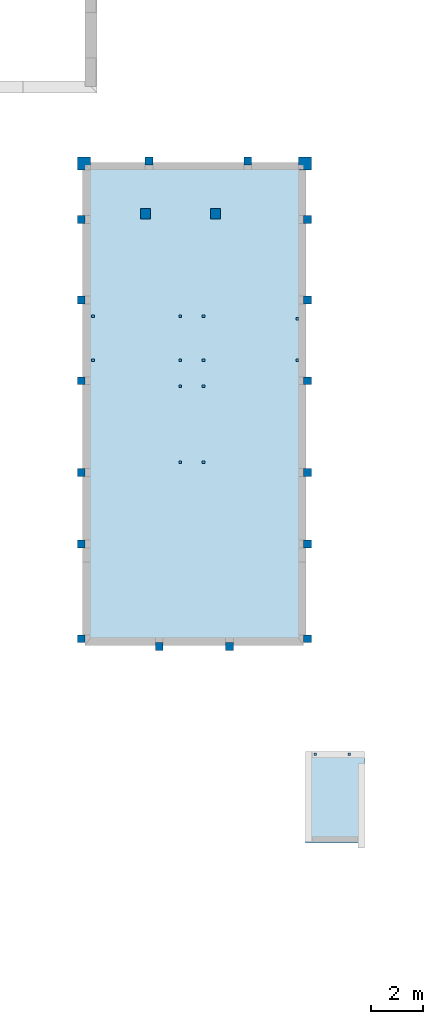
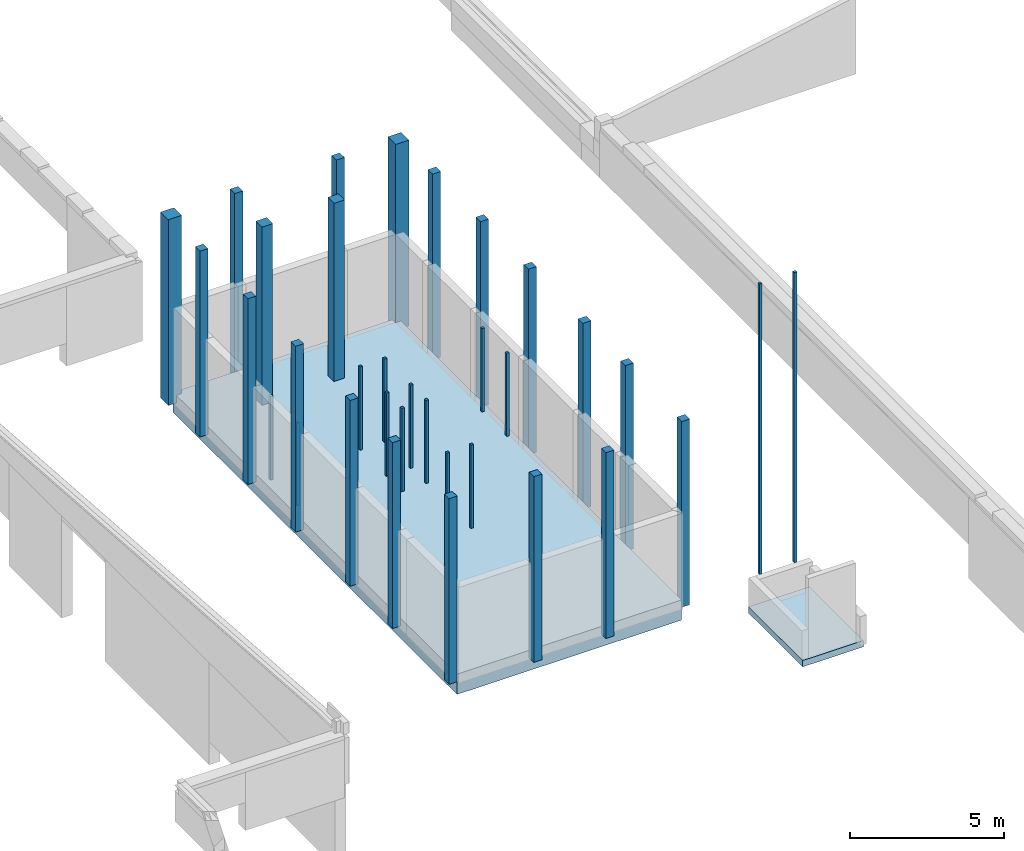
# One storey, part 1 of 17: 34 columns, 2 slabs.
"""IFC2X3 building model written with IfcOpenShell, lengths in millimetres."""

from ifc_helpers import new_model, entity, si_unit, converted_unit, derived_unit, money_unit, direction, frame, origin_with_axes, origin_2d_with_axis, place, context, subcontext, project, spatial, polyline, rectangle, outline, extrude, material, layer, layer_set, layer_usage, type_object, element, save


model = new_model("IFC2X3")

# Units and contexts
model_context = context("Model", 3, precision=0.01, world=origin_with_axes(), true_north=direction((0.0, 1.0)))
body_context = subcontext(model_context, "Body", "Model", "MODEL_VIEW")
ifc_project = project(units=[si_unit("LENGTHUNIT", "METRE", prefix="MILLI"), si_unit("AREAUNIT", "SQUARE_METRE"), si_unit("VOLUMEUNIT", "CUBIC_METRE"), converted_unit("PLANEANGLEUNIT", "DEGREE", entity("IfcPlaneAngleMeasure", 0.0174532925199), si_unit("PLANEANGLEUNIT", "RADIAN"), dimensions=[0, 0, 0, 0, 0, 0, 0]), si_unit("SOLIDANGLEUNIT", "STERADIAN"), money_unit("EUR"), converted_unit("TIMEUNIT", "Year", entity("IfcTimeMeasure", 31556926.0), si_unit("TIMEUNIT", "SECOND"), dimensions=[0, 0, 1, 0, 0, 0, 0]), si_unit("MASSUNIT", "GRAM", prefix="KILO"), si_unit("THERMODYNAMICTEMPERATUREUNIT", "DEGREE_CELSIUS"), si_unit("LUMINOUSINTENSITYUNIT", "LUMEN"), si_unit("ENERGYUNIT", "JOULE", prefix="MEGA"), derived_unit("THERMALCONDUCTANCEUNIT", [(si_unit("POWERUNIT", "WATT"), 1), (si_unit("LENGTHUNIT", "METRE"), -1), (si_unit("THERMODYNAMICTEMPERATUREUNIT", "KELVIN"), -1)]), derived_unit("SPECIFICHEATCAPACITYUNIT", [(si_unit("ENERGYUNIT", "JOULE"), 1), (si_unit("MASSUNIT", "GRAM", prefix="KILO"), -1), (si_unit("THERMODYNAMICTEMPERATUREUNIT", "KELVIN"), -1)]), derived_unit("MASSDENSITYUNIT", [(si_unit("MASSUNIT", "GRAM", prefix="KILO"), 1), (si_unit("VOLUMEUNIT", "CUBIC_METRE"), -1)])], contexts=[model_context])

# Site, building, storey
site_placement = place(None, origin_with_axes())
site = spatial("IfcSite", under=ifc_project, at=site_placement, Name="Puškini 31, Narva", CompositionType="ELEMENT")
building_placement = place(site_placement, origin_with_axes())
building = spatial("IfcBuilding", under=site, at=building_placement, Name="Narva Riigigümnaasium", CompositionType="ELEMENT")
storey_placement = place(building_placement, frame((0.0, 0.0, -6800.0), z_axis=(0.0, 0.0, 1.0), x_axis=(1.0, 0.0, 0.0)))
storey = spatial("IfcBuildingStorey", under=building, at=storey_placement, Name="0.korrus -6.8", CompositionType="ELEMENT", Elevation=-6800.0)

# Columns
ifc_material_1 = material(Name="ET-06_Teras - Konstruktsioon")
column_type_1 = type_object("IfcColumnType", Name="ET-06_Teras - Konstruktsioon 100 x 100", PredefinedType="COLUMN")
for number, where, z_axis, x_axis, name in (
    (1, (37300.0045213, 215165.002185, 10.0), (0.0, 0.0, 1.0), (0.0, 1.0, 0.0), "Post"),
    (2, (37300.0058322, 213465.002913, 10.0), (0.0, 0.0, 1.0), (0.0, 1.0, 0.0), "Post"),
    (3, (45149.9997837, 215065.002185, 10.0), (0.0, 0.0, 1.0), (0.0, 1.0, 0.0), "Post"),
    (4, (45150.0001544, 213465.002913, 10.0), (0.0, 0.0, 1.0), (0.0, 1.0, 0.0), "Post"),
    (5, (41550.0043274, 215165.002185, 10.0), (0.0, 0.0, 1.0), (0.0, 1.0, 0.0), "Post"),
    (6, (40650.0043274, 215165.002185, 10.0), (0.0, 0.0, 1.0), (0.0, 1.0, 0.0), "Post"),
    (7, (41550.0056382, 213465.002913, 10.0), (0.0, 0.0, 1.0), (0.0, 1.0, 0.0), "Post"),
    (8, (40650.0056382, 213465.002913, 10.0), (0.0, 0.0, 1.0), (0.0, 1.0, 0.0), "Post"),
    (9, (40650.0056382, 209548.16103, 10.0), (0.0, 0.0, 1.0), (0.0, 1.0, 0.0), "Post"),
    (10, (41550.0056382, 209548.16103, 10.0), (0.0, 0.0, 1.0), (0.0, 1.0, 0.0), "Post"),
    (11, (41550.0056382, 212465.002913, 10.0), (0.0, 0.0, 1.0), (0.0, 1.0, 0.0), "Post"),
    (12, (40650.0056382, 212465.002913, 10.0), (0.0, 0.0, 1.0), (0.0, 1.0, 0.0), "Post"),
):
    element("IfcColumn", number, at=place(storey_placement, frame(where, z_axis=z_axis, x_axis=x_axis)), inside=storey, type_object=column_type_1, material=ifc_material_1, Name=name, ObjectType="COLUMN", context=body_context, shape_type="SweptSolid", body=[
        extrude(rectangle(XDim=100.0, YDim=100.0, at=origin_2d_with_axis()), origin_with_axes(), (0.0, 0.0, 1.0), 3290.0),
    ])
for number, where, z_axis, x_axis, name in (
    (13, (45850.0, 198310.0, 3500.0), (0.0, 0.0, 1.0), (1.0, 0.0, 0.0), "Post"),
    (14, (47150.0, 198310.0, 3500.0), (0.0, 0.0, 1.0), (1.0, 0.0, 0.0), "Post"),
):
    element("IfcColumn", number, at=place(storey_placement, frame(where, z_axis=z_axis, x_axis=x_axis)), inside=storey, type_object=column_type_1, material=ifc_material_1, Name=name, ObjectType="COLUMN", context=body_context, shape_type="SweptSolid", body=[
        extrude(rectangle(XDim=100.0, YDim=100.0, at=origin_2d_with_axis()), origin_with_axes(), (0.0, 0.0, 1.0), 11480.0),
    ])
ifc_material_2 = material(Name="Betoon element")
column_type_2 = type_object("IfcColumnType", Name="Betoon element 300 x 300", PredefinedType="COLUMN")
for number, where, z_axis, x_axis, name in (
    (15, (45550.0001075, 202750.0, -290.0), (0.0, 0.0, 1.0), (0.0, 1.0, 0.0), "Post"),
    (16, (36850.0042688, 218880.0, -290.0), (0.0, 0.0, 1.0), (0.0, 1.0, 0.0), "Post"),
    (17, (45550.0001075, 218880.0, -290.0), (0.0, 0.0, 1.0), (0.0, 1.0, 0.0), "Post"),
    (18, (42550.0, 202450.0, -290.0), (0.0, 0.0, 1.0), (0.0, 1.0, 0.0), "Post"),
    (19, (39850.0, 202450.0, -290.0), (0.0, 0.0, 1.0), (0.0, 1.0, 0.0), "Post"),
    (20, (45550.0001075, 206400.0, -290.0), (0.0, 0.0, 1.0), (0.0, 1.0, 0.0), "Post"),
    (21, (45550.0001075, 209150.0, -290.0), (0.0, 0.0, 1.0), (0.0, 1.0, 0.0), "Post"),
    (22, (45550.0001075, 212680.0, -290.0), (0.0, 0.0, 1.0), (0.0, 1.0, 0.0), "Post"),
    (23, (45550.0001075, 215780.0, -290.0), (0.0, 0.0, 1.0), (0.0, 1.0, 0.0), "Post"),
    (24, (43250.0001075, 221130.0, -290.0), (0.0, 0.0, 1.0), (0.0, 1.0, 0.0), "Post"),
    (25, (39450.0042688, 221130.0, -290.0), (0.0, 0.0, 1.0), (0.0, 1.0, 0.0), "Post"),
    (26, (36850.0042688, 206400.0, -290.0), (0.0, 0.0, 1.0), (0.0, 1.0, 0.0), "Post"),
    (27, (36850.0042688, 215780.0, -290.0), (0.0, 0.0, 1.0), (0.0, 1.0, 0.0), "Post"),
    (28, (36850.0042688, 202750.0, -290.0), (0.0, 0.0, 1.0), (0.0, 1.0, 0.0), "Post"),
    (29, (36850.0042688, 209150.0, -290.0), (0.0, 0.0, 1.0), (0.0, 1.0, 0.0), "Post"),
    (30, (36850.0042688, 212680.0, -290.0), (0.0, 0.0, 1.0), (0.0, 1.0, 0.0), "Post"),
):
    element("IfcColumn", number, at=place(storey_placement, frame(where, z_axis=z_axis, x_axis=x_axis)), inside=storey, type_object=column_type_2, material=ifc_material_2, Name=name, ObjectType="COLUMN", context=body_context, shape_type="SweptSolid", body=[
        extrude(rectangle(XDim=300.0, YDim=300.0, at=origin_2d_with_axis()), origin_with_axes(), (0.0, 0.0, 1.0), 7345.0),
    ])
column_type_3 = type_object("IfcColumnType", Name="Betoon element 500 x 500", PredefinedType="COLUMN")
for number, where, z_axis, x_axis, name in (
    (31, (36950.0042688, 221030.0, -290.0), (0.0, 0.0, 1.0), (0.0, 1.0, 0.0), "Post"),
    (32, (45449.9999995, 221030.0, -290.0), (0.0, 0.0, 1.0), (0.0, 1.0, 0.0), "Post"),
):
    element("IfcColumn", number, at=place(storey_placement, frame(where, z_axis=z_axis, x_axis=x_axis)), inside=storey, type_object=column_type_3, material=ifc_material_2, Name=name, ObjectType="COLUMN", context=body_context, shape_type="SweptSolid", body=[
        extrude(rectangle(XDim=500.0, YDim=500.0, at=origin_2d_with_axis()), origin_with_axes(), (0.0, 0.0, 1.0), 7345.0),
    ])
column_type_4 = type_object("IfcColumnType", Name="Betoon element 400 x 400", PredefinedType="COLUMN")
for number, where, z_axis, x_axis, name in (
    (33, (39320.0, 219100.0, 0.0), (0.0, 0.0, 1.0), (0.0, 1.0, 0.0), "Post"),
    (34, (42010.0, 219100.0, 0.0), (0.0, 0.0, 1.0), (0.0, 1.0, 0.0), "Post"),
):
    element("IfcColumn", number, at=place(storey_placement, frame(where, z_axis=z_axis, x_axis=x_axis)), inside=storey, type_object=column_type_4, material=ifc_material_2, Name=name, ObjectType="COLUMN", context=body_context, shape_type="SweptSolid", body=[
        extrude(rectangle(XDim=400.0, YDim=400.0, at=origin_2d_with_axis()), origin_with_axes(), (0.0, 0.0, 1.0), 7055.0),
    ])

# Slabs
ifc_material_3 = material(Name="KON-04_Betoon - Konstuktsioon")
ifc_layer_1 = layer(ifc_material_3, 100.0, ventilated="UNKNOWN")
ifc_material_4 = material(Name="SOJ-04_Soojustus - Mineraal Kõva")
ifc_layer_2 = layer(ifc_material_4, 100.0, ventilated="UNKNOWN")
ifc_layer_3 = layer(ifc_material_3, 250.0, ventilated="UNKNOWN")
ifc_layer_4 = layer(ifc_material_3, 50.0, ventilated="UNKNOWN")
ifc_material_5 = material(Name="VKK-03_Kruus")
ifc_layer_5 = layer(ifc_material_5, 200.0, ventilated="UNKNOWN")
ifc_layer_set_1 = layer_set([ifc_layer_1, ifc_layer_2, ifc_layer_2, ifc_layer_3, ifc_layer_4, ifc_layer_5], Name="G-PP-02")
ifc_layer_usage_1 = layer_usage(ifc_layer_set_1, "AXIS3", "NEGATIVE", 800.0)
slab_type_1 = type_object("IfcSlabType", Name="G-PP-02 800", PredefinedType="NOTDEFINED")
slab_1_placement = place(storey_placement, frame((37000.0001824, 220979.999993, 10.0), z_axis=(0.0, 0.0, 1.0), x_axis=(1.0, 0.0, 0.0)))
element("IfcSlab", 35, at=slab_1_placement, inside=storey, type_object=slab_type_1, material=ifc_layer_usage_1, Name="Põrand pinnasel", PredefinedType="NOTDEFINED", context=body_context, shape_type="SweptSolid", body=[
    extrude(outline(polyline([(0.0, 0.0), (0.0134202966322, -18380.0000343), (8399.99981881, -18380.0000343), (8399.99981881, 0.0), (0.0, 0.0)])), frame((0.0, 0.0, -800.0), z_axis=(0.0, 0.0, 1.0), x_axis=(1.0, 0.0, 0.0)), (0.0, 0.0, 1.0), 800.0),
])
ifc_layer_set_2 = layer_set([ifc_layer_3], Name="KON-04_Betoon - Konstuktsioon 250")
ifc_layer_usage_2 = layer_usage(ifc_layer_set_2, "AXIS3", "NEGATIVE", 250.0)
slab_type_2 = type_object("IfcSlabType", Name="KON-04_Betoon - Konstuktsioon 250", PredefinedType="NOTDEFINED")
slab_2_placement = place(storey_placement, frame((47749.9999928, 194900.0, 2250.0), z_axis=(0.0, 0.0, 1.0), x_axis=(1.0, 0.0, 0.0)))
element("IfcSlab", 36, at=slab_2_placement, inside=storey, type_object=slab_type_2, material=ifc_layer_usage_2, Name="Põrand pinnasel", PredefinedType="NOTDEFINED", context=body_context, shape_type="SweptSolid", body=[
    extrude(outline(polyline([(0.0, 0.0), (0.0, 3509.99999988), (-2270.0, 3509.99999988), (-2270.0, 0.0), (0.0, 0.0)])), frame((0.0, 0.0, -250.0), z_axis=(0.0, 0.0, 1.0), x_axis=(1.0, 0.0, 0.0)), (0.0, 0.0, 1.0), 250.0),
])

save(model, "model.ifc")
